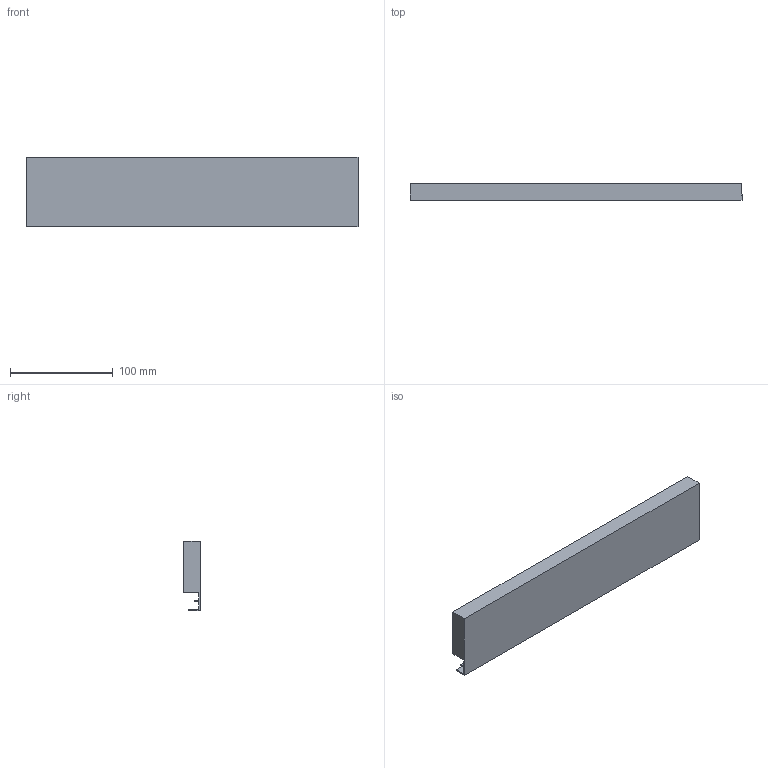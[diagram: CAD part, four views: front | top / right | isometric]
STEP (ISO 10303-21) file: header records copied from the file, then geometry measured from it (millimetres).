
FILE_DESCRIPTION (( 'STEP AP214' ), '1' );
FILE_NAME ('Innenschub-Blendenprofil_KAB450_S18.step', '2010-09-23T12:26:57', ( 'grass' ), ( '' ), 'SwSTEP 2.0', 'SolidWorks 2010', '' );
FILE_SCHEMA (( 'AUTOMOTIVE_DESIGN' ));
Length unit declared in the file: millimetre
Products named in the file (1): Innenschub-Blendenprofil_KAB450_S18
Bounding box: 323 x 15.9 x 67.6 mm (x, y, z)
Volume: 267793.8 mm3; surface area: 65065.6 mm2
Topology: 1 solids, 1 shells, 17 faces, 42 edges, 28 vertices
Faces by surface type: plane 15, cylinder 2
Entity records: 534 total; most frequent: CARTESIAN_POINT 88, ORIENTED_EDGE 84, DIRECTION 82, EDGE_CURVE 42, LINE 38, VECTOR 38, VERTEX_POINT 28, AXIS2_PLACEMENT_3D 22
